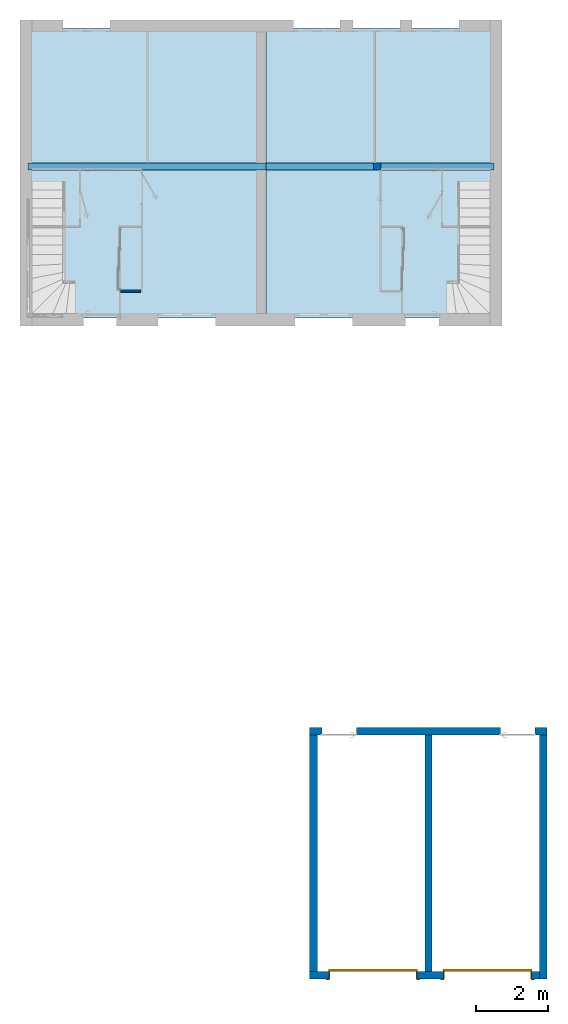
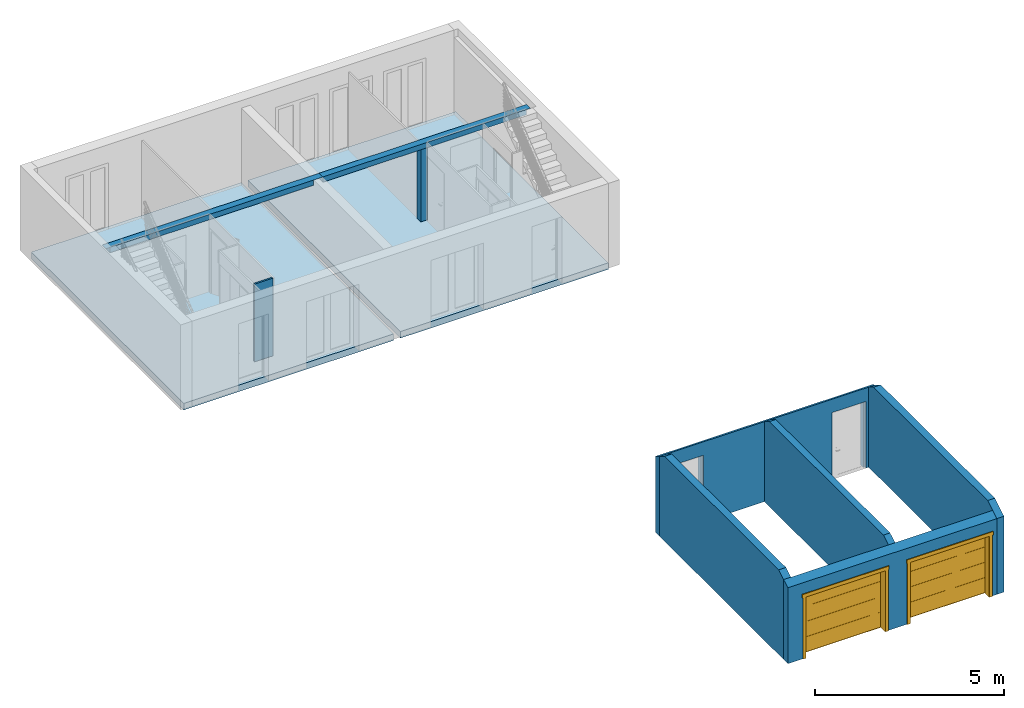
# One storey, part 1 of 12: 6 walls, 2 beams, 2 doors, 2 slabs, 1 column, 4 openings.
"""IFC2X3 building model written with IfcOpenShell, lengths in metres."""

import ifcopenshell
import ifcopenshell.guid

model = None  # the IFC model being written
_history = None  # IfcOwnerHistory: only IFC2X3 demands one
_inside = {}  # id of a spatial element -> (the spatial element, [elements in it])
_under = {}  # id of a project, library or spatial element -> (it, [spatial elements below it])
_declared = {}  # id of a project -> (the project, [libraries it declares])
_typed = {}  # id of a type object -> (the type object, [elements of that type])
_made_of = {}  # id of a material, layer set ... -> (it, [elements and type objects made of it])


def new_model(schema):
    """Start an empty IFC model of exactly this schema.

    Asked for "IFC4X3", IfcOpenShell would pick the latest addendum, in which some entities
    have other attributes; the version numbers below select the first issue.
    IFC2X3 requires an IfcOwnerHistory on every rooted entity: one is made here for all.
    """
    global model, _history
    if schema == "IFC4X3":
        model = ifcopenshell.file(schema_version=(4, 3, 0, 0))
    else:
        model = ifcopenshell.file(schema=schema)
    _inside.clear()
    _under.clear()
    _declared.clear()
    _typed.clear()
    _made_of.clear()
    _history = None
    if model.schema == "IFC2X3":
        org = make("IfcOrganization", Name="unknown")
        user = make(
            "IfcPersonAndOrganization",
            ThePerson=make("IfcPerson", FamilyName="unknown"),
            TheOrganization=org,
        )
        app = make(
            "IfcApplication",
            ApplicationDeveloper=org,
            Version="unknown",
            ApplicationFullName="unknown",
            ApplicationIdentifier="unknown",
        )
        _history = make(
            "IfcOwnerHistory",
            OwningUser=user,
            OwningApplication=app,
            ChangeAction="ADDED",
            CreationDate=0,
        )
    return model


def make(cls, **values):
    """One entity of the class cls with the attributes given. An attribute that is None is left unset."""
    return model.create_entity(
        cls, **{name: value for name, value in values.items() if value is not None}
    )


def entity(cls, *values):
    """Any entity or typed value of the class cls, its attributes in the order of the schema. None: left unset."""
    e = model.create_entity(cls)
    for i, value in enumerate(values):
        if value is not None:
            e[i] = value
    return e


def rooted(cls, **values):
    """An entity with a GlobalId (a new one), such as an element, a storey or a relation."""
    return make(cls, GlobalId=ifcopenshell.guid.new(), OwnerHistory=_history, **values)


def si_unit(unit_type, name, prefix=None):
    """IfcSIUnit, for example si_unit("LENGTHUNIT", "METRE", prefix="MILLI")."""
    return make("IfcSIUnit", UnitType=unit_type, Prefix=prefix, Name=name)


def converted_unit(unit_type, name, factor, base, dimensions=None, offset=None):
    """IfcConversionBasedUnit, such as the inch: factor (a typed value) times the base unit."""
    return make(
        "IfcConversionBasedUnit"
        if offset is None
        else "IfcConversionBasedUnitWithOffset",
        ConversionOffset=offset,
        Dimensions=None
        if dimensions is None
        else entity("IfcDimensionalExponents", *dimensions),
        UnitType=unit_type,
        Name=name,
        ConversionFactor=make(
            "IfcMeasureWithUnit", ValueComponent=factor, UnitComponent=base
        ),
    )


def derived_unit(unit_type, elements):
    """IfcDerivedUnit: a product of units, each with its exponent."""
    return make(
        "IfcDerivedUnit",
        Elements=[
            make("IfcDerivedUnitElement", Unit=unit, Exponent=power)
            for unit, power in elements
        ],
        UnitType=unit_type,
    )


def assignment(units):
    """IfcUnitAssignment: the units of a project."""
    return None if units is None else make("IfcUnitAssignment", Units=units)


def point(xyz):
    """IfcCartesianPoint."""
    return None if xyz is None else make("IfcCartesianPoint", Coordinates=xyz)


def direction(xyz):
    """IfcDirection."""
    return None if xyz is None else make("IfcDirection", DirectionRatios=xyz)


def frame(location, z_axis=None, x_axis=None):
    """IfcAxis2Placement3D, a coordinate frame: its origin and axes. An axis left out is left unset."""
    return make(
        "IfcAxis2Placement3D",
        Location=point(location),
        Axis=direction(z_axis),
        RefDirection=direction(x_axis),
    )


def frame_2d(location, x_axis=None):
    """IfcAxis2Placement2D, a coordinate frame in the plane: its origin and x axis."""
    return make(
        "IfcAxis2Placement2D", Location=point(location), RefDirection=direction(x_axis)
    )


def origin():
    """The frame at (0, 0, 0) with its axes left unset."""
    return frame((0.0, 0.0, 0.0))


def origin_2d_with_axis():
    """The frame at (0, 0) in the plane with the x axis (1, 0) written out."""
    return frame_2d((0.0, 0.0), x_axis=(1.0, 0.0))


def place(relative_to, where):
    """IfcLocalPlacement: puts the frame where relative to a parent placement (None: the world)."""
    return make(
        "IfcLocalPlacement", PlacementRelTo=relative_to, RelativePlacement=where
    )


def context(
    kind, dimensions, precision=None, world=None, true_north=None, identifier=None
):
    """IfcGeometricRepresentationContext, for example the 3D "Model" context."""
    return make(
        "IfcGeometricRepresentationContext",
        ContextIdentifier=identifier,
        ContextType=kind,
        CoordinateSpaceDimension=dimensions,
        Precision=precision,
        WorldCoordinateSystem=world,
        TrueNorth=true_north,
    )


def subcontext(parent, identifier, kind, view, scale=None):
    """IfcGeometricRepresentationSubContext, for example "Body" below "Model"."""
    return make(
        "IfcGeometricRepresentationSubContext",
        ContextIdentifier=identifier,
        ContextType=kind,
        ParentContext=parent,
        TargetScale=scale,
        TargetView=view,
    )


def project(units=None, contexts=None):
    """IfcProject with its units and contexts."""
    return rooted(
        "IfcProject",
        Name="project",
        RepresentationContexts=contexts,
        UnitsInContext=assignment(units),
    )


def spatial(cls, under=None, at=None, **own):
    """A site, building, storey or space (cls), placed at a placement, below another one or the project."""
    s = rooted(cls, ObjectPlacement=at, **own)
    if under is not None:
        _under.setdefault(under.id(), (under, []))[1].append(s)
    return s


def polyline(points):
    """IfcPolyline through the points."""
    return make("IfcPolyline", Points=[point(p) for p in points])


def profile(cls, at=None, kind="AREA", **sizes):
    """A parametric profile (cls). Its sizes go by their IFC names, for example OverallWidth=200.0."""
    return make(cls, ProfileType=kind, Position=at, **sizes)


def rectangle(**sizes):
    """IfcRectangleProfileDef."""
    return profile("IfcRectangleProfileDef", **sizes)


def outline(outer, holes=None, kind="AREA"):
    """IfcArbitraryClosedProfileDef: a profile drawn as a closed curve; with holes, ...WithVoids."""
    if holes is None:
        return make("IfcArbitraryClosedProfileDef", ProfileType=kind, OuterCurve=outer)
    return make(
        "IfcArbitraryProfileDefWithVoids",
        ProfileType=kind,
        OuterCurve=outer,
        InnerCurves=holes,
    )


def extrude(swept, where, along, depth):
    """IfcExtrudedAreaSolid: the profile swept, set in the frame where, extruded along a direction by depth."""
    return make(
        "IfcExtrudedAreaSolid",
        SweptArea=swept,
        Position=where,
        ExtrudedDirection=direction(along),
        Depth=depth,
    )


def clip(a, b, op="DIFFERENCE"):
    """IfcBooleanClippingResult: the solid a cut by the half space b."""
    return make(
        "IfcBooleanClippingResult", Operator=op, FirstOperand=a, SecondOperand=b
    )


def halfspace(plane, agree):
    """IfcHalfSpaceSolid: all space on one side of the plane z = 0 of the frame plane."""
    return make(
        "IfcHalfSpaceSolid",
        BaseSurface=make("IfcPlane", Position=plane),
        AgreementFlag=agree,
    )


def bounded_halfspace(plane, agree, where, boundary):
    """IfcPolygonalBoundedHalfSpace: a half space limited to a polygon's prism."""
    return make(
        "IfcPolygonalBoundedHalfSpace",
        BaseSurface=make("IfcPlane", Position=plane),
        AgreementFlag=agree,
        Position=where,
        PolygonalBoundary=boundary,
    )


def faces_of(points, faces, orient=None, outer=None):
    """IfcFace entities. A face is a list of loops; a loop is a list of indices into points, from 0.

    orient and outer hold one flag for each loop. By default every Orientation is true, the
    first loop of a face is its IfcFaceOuterBound and the others are IfcFaceBound.
    """
    made = []
    for i, loops in enumerate(faces):
        bounds = []
        for j, loop in enumerate(loops):
            is_outer = j == 0 if outer is None else outer[i][j]
            bounds.append(
                make(
                    "IfcFaceOuterBound" if is_outer else "IfcFaceBound",
                    Bound=make("IfcPolyLoop", Polygon=[points[k] for k in loop]),
                    Orientation=True if orient is None else orient[i][j],
                )
            )
        made.append(make("IfcFace", Bounds=bounds))
    return made


def faceted_brep(points, faces, orient=None, outer=None, voids=None):
    """IfcFacetedBrep: a solid bounded by flat faces; with voids (closed shells), ...WithVoids."""
    shared = [point(p) for p in points]
    hull = make("IfcClosedShell", CfsFaces=faces_of(shared, faces, orient, outer))
    if voids is None:
        return make("IfcFacetedBrep", Outer=hull)
    return make(
        "IfcFacetedBrepWithVoids",
        Outer=hull,
        Voids=[
            make(cls, CfsFaces=faces_of(shared, fs, o, b)) for cls, fs, o, b in voids
        ],
    )


def shape(context_of_items, identifier, shape_type, items):
    """IfcShapeRepresentation: the items that make up one representation, for example the "Body"."""
    return make(
        "IfcShapeRepresentation",
        ContextOfItems=context_of_items,
        RepresentationIdentifier=identifier,
        RepresentationType=shape_type,
        Items=items,
    )


def source(mapping_origin, context_of_items, identifier, shape_type, items):
    """IfcRepresentationMap: a shape defined once, which mapped items show again and again."""
    return make(
        "IfcRepresentationMap",
        MappingOrigin=mapping_origin,
        MappedRepresentation=shape(context_of_items, identifier, shape_type, items),
    )


def transform(
    local_origin,
    x_axis=None,
    y_axis=None,
    z_axis=None,
    scale=None,
    scale2=None,
    scale3=None,
    uniform=True,
):
    """IfcCartesianTransformationOperator3D, or its non-uniform kind. x_axis, y_axis, z_axis: its Axis1, 2, 3."""
    if uniform:
        return make(
            "IfcCartesianTransformationOperator3D",
            Axis1=direction(x_axis),
            Axis2=direction(y_axis),
            LocalOrigin=point(local_origin),
            Scale=scale,
            Axis3=direction(z_axis),
        )
    return make(
        "IfcCartesianTransformationOperator3DnonUniform",
        Axis1=direction(x_axis),
        Axis2=direction(y_axis),
        LocalOrigin=point(local_origin),
        Scale=scale,
        Axis3=direction(z_axis),
        Scale2=scale2,
        Scale3=scale3,
    )


def mapped(mapping_source, mapping_target):
    """IfcMappedItem: shows the shape of a source again, moved by a transform."""
    return make(
        "IfcMappedItem", MappingSource=mapping_source, MappingTarget=mapping_target
    )


def material(Name=None, Category=None):
    """IfcMaterial."""
    return make("IfcMaterial", Name=Name, Category=Category)


def layer(
    of_material, thickness, ventilated=None, Name=None, Category=None, Priority=None
):
    """IfcMaterialLayer: one layer of a wall or slab, of a material (None: an air gap)."""
    return make(
        "IfcMaterialLayer",
        Material=of_material,
        LayerThickness=thickness,
        IsVentilated=ventilated,
        Name=Name,
        Category=Category,
        Priority=Priority,
    )


def layer_set(layers, Name=None):
    """IfcMaterialLayerSet."""
    return make("IfcMaterialLayerSet", MaterialLayers=layers, LayerSetName=Name)


def layer_usage(for_layer_set, set_direction, sense, offset, extent=None):
    """IfcMaterialLayerSetUsage: how a layer set lies in its element."""
    return make(
        "IfcMaterialLayerSetUsage",
        ForLayerSet=for_layer_set,
        LayerSetDirection=set_direction,
        DirectionSense=sense,
        OffsetFromReferenceLine=offset,
        ReferenceExtent=extent,
    )


def made_of(thing, what):
    """Note that an element or type object is made of a material, layer set ...; save() writes the relation."""
    if what is not None:
        _made_of.setdefault(what.id(), (what, []))[1].append(thing)
    return thing


def type_object(cls, material=None, **own):
    """A type object (cls), such as IfcWallType, which elements share."""
    return made_of(rooted(cls, **own), material)


def type_shapes(of_type, sources):
    """Give a type object the sources (RepresentationMaps) that its elements show as mapped items."""
    of_type.RepresentationMaps = sources


def element(
    cls,
    number,
    at=None,
    inside=None,
    cuts=None,
    type_object=None,
    material=None,
    context=None,
    identifier="Body",
    shape_type=None,
    held_by="IfcProductDefinitionShape",
    body=None,
    shapes=None,
    **own,
):
    """One element of the class cls, such as IfcWall. Its Tag is "e" and its number.

    at: its placement. inside: the storey or other place that contains it. cuts: it is an
    opening in that element (IfcRelVoidsElement). A single representation is given by context,
    identifier, shape_type and body (its items); several are given by shapes. held_by: the class
    of the entity that holds the representations. save() writes the other relations.
    """
    e = rooted(cls, Tag="e%d" % number, ObjectPlacement=at, **own)
    if body is not None:
        shapes = [shape(context, identifier, shape_type, body)]
    if shapes is not None:
        e.Representation = make(held_by, Representations=shapes)
    if inside is not None:
        _inside.setdefault(inside.id(), (inside, []))[1].append(e)
    if cuts is not None:
        rooted(
            "IfcRelVoidsElement", RelatingBuildingElement=cuts, RelatedOpeningElement=e
        )
    if type_object is not None:
        _typed.setdefault(type_object.id(), (type_object, []))[1].append(e)
    return made_of(e, material)


def fill(opening, filler):
    """IfcRelFillsElement: the door or window that sits in an opening."""
    return rooted(
        "IfcRelFillsElement",
        RelatingOpeningElement=opening,
        RelatedBuildingElement=filler,
    )


def aggregate(whole, parts):
    """IfcRelAggregates: a whole, such as a stair, and the parts it consists of."""
    return rooted("IfcRelAggregates", RelatingObject=whole, RelatedObjects=parts)


def save(model, path):
    """Write the relations noted so far, then the file.

    IfcRelAggregates (storeys below a building ...), IfcRelContainedInSpatialStructure (elements
    in a storey), IfcRelDefinesByType, IfcRelAssociatesMaterial and IfcRelDeclares: one each for
    every whole, place, type object, material and project.
    """
    for whole, parts in _under.values():
        aggregate(whole, parts)
    for where, things in _inside.values():
        rooted(
            "IfcRelContainedInSpatialStructure",
            RelatedElements=things,
            RelatingStructure=where,
        )
    for kind, things in _typed.values():
        rooted("IfcRelDefinesByType", RelatedObjects=things, RelatingType=kind)
    for what, things in _made_of.values():
        rooted("IfcRelAssociatesMaterial", RelatedObjects=things, RelatingMaterial=what)
    for by, libraries in _declared.values():
        rooted("IfcRelDeclares", RelatingContext=by, RelatedDefinitions=libraries)
    model.write(path)


model = new_model("IFC2X3")

# Units and contexts
model_context = context("Model", 3, precision=1e-05, world=origin(), true_north=direction((6.12303176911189e-17, 1.0)))
context_of_model = context(None, 3, precision=1e-05, world=origin(), true_north=direction((6.12303176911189e-17, 1.0)))
body_context = subcontext(model_context, "Body", "Model", "MODEL_VIEW")
ifc_project = project(units=[si_unit("LENGTHUNIT", "METRE"), si_unit("AREAUNIT", "SQUARE_METRE"), si_unit("VOLUMEUNIT", "CUBIC_METRE"), converted_unit("PLANEANGLEUNIT", "DEGREE", entity("IfcRatioMeasure", 0.0174532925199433), si_unit("PLANEANGLEUNIT", "RADIAN"), dimensions=[0, 0, 0, 0, 0, 0, 0]), si_unit("MASSUNIT", "GRAM", prefix="KILO"), si_unit("TIMEUNIT", "SECOND"), si_unit("FREQUENCYUNIT", "HERTZ"), si_unit("THERMODYNAMICTEMPERATUREUNIT", "DEGREE_CELSIUS"), derived_unit("THERMALTRANSMITTANCEUNIT", [(si_unit("MASSUNIT", "GRAM", prefix="KILO"), 1), (si_unit("THERMODYNAMICTEMPERATUREUNIT", "KELVIN"), -1), (si_unit("TIMEUNIT", "SECOND"), -3)]), derived_unit("VOLUMETRICFLOWRATEUNIT", [(si_unit("LENGTHUNIT", "METRE"), 3), (si_unit("TIMEUNIT", "SECOND"), -1)]), si_unit("ELECTRICCURRENTUNIT", "AMPERE"), si_unit("ELECTRICVOLTAGEUNIT", "VOLT"), si_unit("POWERUNIT", "WATT"), si_unit("FORCEUNIT", "NEWTON", prefix="KILO"), si_unit("ILLUMINANCEUNIT", "LUX"), si_unit("LUMINOUSFLUXUNIT", "LUMEN"), si_unit("LUMINOUSINTENSITYUNIT", "CANDELA"), derived_unit("USERDEFINED", [(si_unit("MASSUNIT", "GRAM", prefix="KILO"), -1), (si_unit("LENGTHUNIT", "METRE"), -2), (si_unit("TIMEUNIT", "SECOND"), 3), (si_unit("LUMINOUSFLUXUNIT", "LUMEN"), 1)]), derived_unit("LINEARVELOCITYUNIT", [(si_unit("LENGTHUNIT", "METRE"), 1), (si_unit("TIMEUNIT", "SECOND"), -1)]), si_unit("PRESSUREUNIT", "PASCAL"), derived_unit("USERDEFINED", [(si_unit("LENGTHUNIT", "METRE"), -2), (si_unit("MASSUNIT", "GRAM", prefix="KILO"), 1), (si_unit("TIMEUNIT", "SECOND"), -2)])], contexts=[model_context, context_of_model])

# Site, building, storey
site_placement = place(None, origin())
site = spatial("IfcSite", under=ifc_project, at=site_placement, Name="Surface", CompositionType="ELEMENT")
building_placement = place(site_placement, origin())
building = spatial("IfcBuilding", under=site, at=building_placement, CompositionType="ELEMENT")
storey_placement = place(building_placement, origin())
storey = spatial("IfcBuildingStorey", under=building, at=storey_placement, Name="Rez de chaussée", CompositionType="ELEMENT", Elevation=0.0)

# Column
ifc_material_1 = material(Name="Maçonnerie - Béton")
column_type = type_object("IfcColumnType", Name="200 x 200 mm", PredefinedType="COLUMN", material=ifc_material_1)
shared_shape_1 = source(origin(), body_context, "Body", "SweptSolid", [
    extrude(rectangle(XDim=0.2, YDim=0.2, at=frame_2d((-1.38777878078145e-16, 0.0), x_axis=(1.0, 0.0))), frame((-1.70608881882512, 1.61425578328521, -0.61), z_axis=(0.0, 0.0, 1.0), x_axis=(-1.0, 0.0, 0.0)), (0.0, 0.0, 1.0), 2.94),
])
type_shapes(column_type, [shared_shape_1])
column_placement = place(storey_placement, origin())
element("IfcColumn", 1, at=column_placement, inside=storey, type_object=column_type, material=ifc_material_1, Name="Poteau rectangulaire:200 x 200 mm", ObjectType="200 x 200 mm", context=body_context, shape_type="MappedRepresentation", body=[
    mapped(shared_shape_1, transform((0.0, 0.0, 0.0), scale=1.0)),
])

# Beams
beam_1_placement = place(storey_placement, frame((-11.4160888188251, 1.51425578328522, 2.33)))
element("IfcBeam", 2, at=beam_1_placement, inside=storey, material=ifc_material_1, Name="Poutre rectangulaire - Béton:200 x 400 mm", ObjectType="Poutre rectangulaire - Béton:200 x 400 mm", context=body_context, shape_type="Brep", body=[
    faceted_brep([(6.33999999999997, 0.0, 0.0), (6.33999999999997, 0.0, 0.168000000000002), (6.61999999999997, 0.0, 0.168000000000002), (6.61999999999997, 0.0, 0.170000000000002), (0.0, 0.0, 0.170000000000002), (0.0, 0.0, 0.168000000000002), (0.120000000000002, 0.0, 0.168000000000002), (0.120000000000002, 0.0, 0.0), (6.33999999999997, 0.200000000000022, 0.0), (0.120000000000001, 0.200000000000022, 0.0), (6.33999999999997, 0.200000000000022, 0.168000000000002), (0.120000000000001, 0.200000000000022, 0.168000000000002), (0.0, 0.200000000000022, 0.168000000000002), (0.0, 0.200000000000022, 0.170000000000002), (6.61999999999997, 0.200000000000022, 0.170000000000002), (6.61999999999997, 0.200000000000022, 0.168000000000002)], [[[0, 1, 2, 3, 4, 5, 6, 7]], [[8, 0, 7, 9]], [[10, 8, 9, 11, 12, 13, 14, 15]], [[10, 1, 0, 8]], [[6, 11, 9, 7]], [[1, 10, 15, 2]], [[11, 6, 5, 12]], [[12, 5, 4, 13]], [[2, 15, 14, 3]], [[4, 3, 14, 13]]]),
])
beam_2_placement = place(storey_placement, frame((-4.79608881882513, 1.5142557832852, 2.33)))
element("IfcBeam", 3, at=beam_2_placement, inside=storey, material=ifc_material_1, Name="Poutre rectangulaire - Béton:200 x 400 mm", ObjectType="Poutre rectangulaire - Béton:200 x 400 mm", context=body_context, shape_type="Brep", body=[
    faceted_brep([(6.22, 0.0, 0.0), (6.22, 0.0, 0.168000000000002), (6.34, 0.0, 0.168000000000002), (6.34, 0.0, 0.170000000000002), (0.0, 0.0, 0.170000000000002), (0.0, 0.0, 0.168000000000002), (0.0, 0.0, 0.0), (6.22, 0.20000000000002, 0.0), (0.0, 0.20000000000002, 0.0), (6.22, 0.20000000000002, 0.168000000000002), (0.0, 0.20000000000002, 0.168000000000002), (0.0, 0.20000000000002, 0.170000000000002), (6.34, 0.200000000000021, 0.170000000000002), (6.34, 0.200000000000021, 0.168000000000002)], [[[0, 1, 2, 3, 4, 5, 6]], [[7, 0, 6, 8]], [[9, 7, 8, 10, 11, 12, 13]], [[9, 1, 0, 7]], [[8, 6, 5, 4, 11, 10]], [[1, 9, 13, 2]], [[2, 13, 12, 3]], [[4, 3, 12, 11]]]),
])

# Slabs
ifc_layer_1 = layer(ifc_material_1, 0.13)
ifc_material_2 = material(Name="Maçonnerie - Isolant 1")
ifc_layer_2 = layer(ifc_material_2, 0.08)
ifc_layer_set_1 = layer_set([ifc_layer_1, ifc_layer_2], Name="Sol:Dalle en béton - 13")
ifc_layer_usage_1 = layer_usage(ifc_layer_set_1, "AXIS3", "POSITIVE", 0.0)
slab_1_placement = place(storey_placement, origin())
element("IfcSlab", 4, at=slab_1_placement, inside=storey, material=ifc_layer_usage_1, Name="Sol:Dalle en béton - 13", ObjectType="Sol:Dalle en béton - 13", PredefinedType="FLOOR", context=body_context, shape_type="SweptSolid", body=[
    extrude(rectangle(XDim=8.06000000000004, YDim=6.35000000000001, at=frame_2d((0.0, -3.10862446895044e-15), x_axis=(1.0, 0.0))), frame((-1.63108881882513, 1.4342557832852, 0.0), z_axis=(0.0, 0.0, -1.0), x_axis=(0.0, 1.0, 0.0)), (0.0, 0.0, 1.0), 0.21),
])
ifc_layer_usage_2 = layer_usage(ifc_layer_set_1, "AXIS3", "POSITIVE", 0.0)
slab_2_placement = place(storey_placement, origin())
element("IfcSlab", 5, at=slab_2_placement, inside=storey, material=ifc_layer_usage_2, Name="Sol:Dalle en béton - 13", ObjectType="Sol:Dalle en béton - 13", PredefinedType="FLOOR", context=body_context, shape_type="SweptSolid", body=[
    extrude(rectangle(XDim=8.06000000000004, YDim=6.40999999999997, at=frame_2d((0.0, -4.44089209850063e-16), x_axis=(1.0, 0.0))), frame((-8.21108881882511, 1.4342557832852, 0.0), z_axis=(0.0, 0.0, -1.0), x_axis=(0.0, 1.0, 0.0)), (0.0, 0.0, 1.0), 0.21),
])

# Wall
ifc_material_3 = material(Name="Maçonnerie - Isolant(1)")
ifc_layer_3 = layer(ifc_material_3, 0.05)
ifc_layer_set_2 = layer_set([ifc_layer_3], Name="Mur de base:Int. plâtre 50 mm")
ifc_layer_usage_3 = layer_usage(ifc_layer_set_2, "AXIS2", "NEGATIVE", 0.025)
wall_type_1 = type_object("IfcWallType", Name="Mur de base:Int. plâtre 50 mm", PredefinedType="STANDARD", material=ifc_layer_set_2)
wall_1_placement = place(storey_placement, frame((-8.27608881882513, -1.85074421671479, -0.00999999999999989), z_axis=(0.0, 0.0, 1.0), x_axis=(-1.0, 0.0, 0.0)))
element("IfcWallStandardCase", 6, at=wall_1_placement, inside=storey, type_object=wall_type_1, material=ifc_layer_usage_3, Name="Mur de base:Int. plâtre 50 mm", ObjectType="Mur de base:Int. plâtre 50 mm", context=body_context, shape_type="SweptSolid", body=[
    extrude(rectangle(XDim=0.560000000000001, YDim=0.05, at=frame_2d((0.28, 0.0), x_axis=(-1.0, 0.0))), origin(), (0.0, 0.0, 1.0), 2.52),
])

# Wall, openings
ifc_material_4 = material(Name="Maçonnerie - Enduit")
ifc_layer_4 = layer(ifc_material_4, 0.02)
ifc_layer_5 = layer(ifc_material_1, 0.2)
ifc_layer_set_3 = layer_set([ifc_layer_4, ifc_layer_5], Name="Mur de base:Ext.BBM + enduit 22")
ifc_layer_usage_4 = layer_usage(ifc_layer_set_3, "AXIS2", "NEGATIVE", 0.11)
wall_type_2 = type_object("IfcWallType", Name="Mur de base:Ext.BBM + enduit 22", PredefinedType="STANDARD", material=ifc_layer_set_3)
wall_2_placement = place(storey_placement, frame((-3.58506493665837, -14.0835833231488, 0.0)))
wall_2 = element("IfcWallStandardCase", 7, at=wall_2_placement, inside=storey, type_object=wall_type_2, material=ifc_layer_usage_4, Name="Mur de base:Ext.BBM + enduit 22", ObjectType="Mur de base:Ext.BBM + enduit 22", context=body_context, shape_type="Clipping", body=[
    clip(extrude(rectangle(XDim=6.60000000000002, YDim=0.220000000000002, at=frame_2d((3.30000000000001, -2.70616862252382e-16), x_axis=(-1.0, 0.0))), origin(), (0.0, 0.0, 1.0), 2.58218933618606), bounded_halfspace(frame((0.0, -0.109999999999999, 2.58218933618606), z_axis=(0.0, 0.515038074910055, 0.857167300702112), x_axis=(-1.0, 0.0, 0.0)), False, frame((0.0, -0.109999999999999, 2.58218933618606)), polyline([(0.0, 0.0), (0.22, 0.0), (3.2, 0.0), (3.4, 0.0), (6.38000000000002, 0.0), (6.60000000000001, 0.0), (6.60000000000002, 0.219999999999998), (0.0, 0.22), (0.0, 0.0)]))),
])
opening_1_placement = place(wall_2_placement, frame((0.305000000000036, -0.410000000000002, 0.0)))
element("IfcOpeningElement", 8, at=opening_1_placement, cuts=wall_2, Name="Mur de base:Ext.BBM + enduit 22", ObjectType="Opening", context=body_context, shape_type="Brep", body=[
    faceted_brep([(0.98999999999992, 0.820000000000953, 2.11000000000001), (0.0400000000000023, 0.820000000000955, 2.11000000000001), (0.0400000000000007, 0.350000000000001, 2.11000000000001), (0.989999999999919, 0.349999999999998, 2.11000000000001), (0.0400000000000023, 0.820000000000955, 0.0), (0.98999999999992, 0.820000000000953, 0.0), (0.989999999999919, 0.349999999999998, 0.0), (1.02999999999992, 0.349999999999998, 0.0), (1.02999999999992, 0.299999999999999, 0.0), (0.989999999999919, 0.299999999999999, 0.0), (0.989999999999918, 0.0, 0.0), (0.0399999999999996, 0.0, 0.0), (0.0400000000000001, 0.300000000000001, 0.0), (0.0, 0.300000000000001, 0.0), (0.0, 0.350000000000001, 0.0), (0.0400000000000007, 0.350000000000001, 0.0), (0.989999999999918, 0.0, 2.11000000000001), (0.0399999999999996, 0.0, 2.11000000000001), (1.02999999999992, 0.299999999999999, 2.15000000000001), (0.0, 0.300000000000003, 2.15000000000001), (0.0400000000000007, 0.300000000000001, 2.11000000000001), (0.989999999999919, 0.299999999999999, 2.11000000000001), (1.02999999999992, 0.349999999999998, 2.15000000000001), (0.0, 0.350000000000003, 2.15000000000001)], [[[0, 1, 2, 3]], [[4, 5, 6, 7, 8, 9, 10, 11, 12, 13, 14, 15]], [[1, 0, 5, 4]], [[5, 0, 3, 6]], [[16, 17, 11, 10]], [[1, 4, 15, 2]], [[9, 8, 18, 19, 13, 12, 20, 21]], [[8, 7, 22, 18]], [[7, 6, 3, 2, 15, 14, 23, 22]], [[19, 18, 22, 23]], [[13, 19, 23, 14]], [[11, 17, 20, 12]], [[16, 10, 9, 21]], [[17, 16, 21, 20]]]),
])
opening_2_placement = place(wall_2_placement, frame((5.26500000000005, -0.41000000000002, 0.0)))
element("IfcOpeningElement", 9, at=opening_2_placement, cuts=wall_2, Name="Mur de base:Ext.BBM + enduit 22", ObjectType="Opening", context=body_context, shape_type="Brep", body=[
    faceted_brep([(0.989999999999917, 0.0, 2.11000000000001), (0.989999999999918, 0.299999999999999, 2.11000000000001), (0.0399999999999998, 0.300000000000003, 2.11000000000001), (0.039999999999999, 0.0, 2.11000000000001), (0.98999999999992, 0.820000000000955, 0.0), (0.989999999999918, 0.350000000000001, 0.0), (1.02999999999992, 0.349999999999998, 0.0), (1.02999999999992, 0.299999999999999, 0.0), (0.989999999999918, 0.299999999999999, 0.0), (0.989999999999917, 0.0, 0.0), (0.039999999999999, 0.0, 0.0), (0.0399999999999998, 0.300000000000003, 0.0), (0.0, 0.300000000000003, 0.0), (0.0, 0.350000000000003, 0.0), (0.0399999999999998, 0.350000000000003, 0.0), (0.0400000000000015, 0.820000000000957, 0.0), (0.98999999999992, 0.820000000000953, 2.11000000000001), (0.0400000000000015, 0.820000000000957, 2.11000000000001), (0.989999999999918, 0.350000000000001, 2.11000000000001), (1.02999999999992, 0.299999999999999, 2.15000000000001), (0.0, 0.300000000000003, 2.15000000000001), (0.0, 0.350000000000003, 2.15000000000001), (1.02999999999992, 0.349999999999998, 2.15000000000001), (0.0399999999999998, 0.350000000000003, 2.11000000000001)], [[[0, 1, 2, 3]], [[4, 5, 6, 7, 8, 9, 10, 11, 12, 13, 14, 15]], [[16, 4, 15, 17]], [[3, 2, 11, 10]], [[3, 10, 9, 0]], [[16, 18, 5, 4]], [[11, 2, 1, 8, 7, 19, 20, 12]], [[12, 20, 21, 13]], [[13, 21, 22, 6, 5, 18, 23, 14]], [[19, 22, 21, 20]], [[7, 6, 22, 19]], [[9, 8, 1, 0]], [[15, 14, 23, 17]], [[17, 23, 18, 16]]]),
])

# Wall
ifc_layer_usage_5 = layer_usage(ifc_layer_set_3, "AXIS2", "NEGATIVE", 0.11)
wall_3_placement = place(storey_placement, frame((2.90493506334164, -14.1935833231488, 0.0), z_axis=(0.0, 0.0, 1.0), x_axis=(0.0, -1.0, 0.0)))
element("IfcWallStandardCase", 10, at=wall_3_placement, inside=storey, type_object=wall_type_2, material=ifc_layer_usage_5, Name="Mur de base:Ext.BBM + enduit 22", ObjectType="Mur de base:Ext.BBM + enduit 22", context=body_context, shape_type="Clipping", body=[
    clip(clip(clip(extrude(rectangle(XDim=6.78000000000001, YDim=0.22, at=frame_2d((3.39, 1.38777878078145e-17), x_axis=(-1.0, 0.0))), origin(), (0.0, 0.0, 1.0), 2.74), bounded_halfspace(frame((0.0, -0.11, 2.58218933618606), z_axis=(-0.515038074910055, 0.0, 0.857167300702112), x_axis=(0.0, -1.0, 0.0)), False, frame((0.0, -0.11, 2.58218933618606)), polyline([(0.0, 0.0), (3.27999999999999, 0.0), (3.27999999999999, 0.22), (0.0, 0.22), (0.0, 0.0)]))), bounded_halfspace(frame((3.27999999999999, -0.11, 4.55301216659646), z_axis=(0.515038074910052, 0.0, 0.857167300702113), x_axis=(0.0, 1.0, 0.0)), False, frame((3.27999999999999, -0.11, 4.55301216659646)), polyline([(0.0, 0.0), (3.28000000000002, 0.0), (3.50000000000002, 0.0), (3.50000000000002, 0.22), (0.0, 0.22), (0.0, 0.0)]))), halfspace(origin(), True)),
])

# Wall, openings, doors
ifc_layer_usage_6 = layer_usage(ifc_layer_set_3, "AXIS2", "NEGATIVE", 0.11)
wall_4_placement = place(storey_placement, frame((2.79493506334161, -20.8635833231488, 0.0), z_axis=(0.0, 0.0, 1.0), x_axis=(-1.0, 0.0, 0.0)))
wall_4 = element("IfcWallStandardCase", 11, at=wall_4_placement, inside=storey, type_object=wall_type_2, material=ifc_layer_usage_6, Name="Mur de base:Ext.BBM + enduit 22", ObjectType="Mur de base:Ext.BBM + enduit 22", context=body_context, shape_type="Clipping", body=[
    clip(extrude(rectangle(XDim=6.38, YDim=0.220000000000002, at=frame_2d((3.19, -1.62370117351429e-15), x_axis=(-1.0, 0.0))), origin(), (0.0, 0.0, 1.0), 2.58218933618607), bounded_halfspace(frame((0.0, -0.110000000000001, 2.58218933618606), z_axis=(0.0, 0.515038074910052, 0.857167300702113), x_axis=(-1.0, 0.0, 0.0)), False, frame((0.0, -0.110000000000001, 2.58218933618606)), polyline([(0.0, 0.0), (2.98, 0.0), (3.18, 0.0), (6.16, 0.0), (6.38, 0.0), (6.38, 0.219999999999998), (0.0, 0.220000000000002), (0.0, 0.0)]))),
])
opening_3_placement = place(wall_4_placement, frame((5.8392, 0.109999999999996, 0.0)))
opening_3 = element("IfcOpeningElement", 12, at=opening_3_placement, cuts=wall_4, Name="Overhead-Sectional-Flush:96\" x 78\":1", ObjectType="Opening", context=body_context, shape_type="SweptSolid", body=[
    extrude(rectangle(XDim=1.9812, YDim=2.4384, at=frame_2d((0.990599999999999, 1.2192), x_axis=(1.0, 0.0))), frame((0.0, 0.0, 0.0), z_axis=(0.0, -1.0, 0.0), x_axis=(0.0, 0.0, 1.0)), (0.0, 0.0, 1.0), 0.22),
])
opening_4_placement = place(wall_4_placement, frame((2.6592, 0.109999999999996, 0.0)))
opening_4 = element("IfcOpeningElement", 13, at=opening_4_placement, cuts=wall_4, Name="Overhead-Sectional-Flush:96\" x 78\":1", ObjectType="Opening", context=body_context, shape_type="SweptSolid", body=[
    extrude(rectangle(XDim=1.9812, YDim=2.4384, at=frame_2d((0.990599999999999, 1.2192), x_axis=(1.0, 0.0))), frame((0.0, 0.0, 0.0), z_axis=(0.0, -1.0, 0.0), x_axis=(0.0, 0.0, 1.0)), (0.0, 0.0, 1.0), 0.22),
])
ifc_material_5 = material(Name="Rubber - Black")
door_style = type_object("IfcDoorStyle", Name="96\" x 78\"", ConstructionType="NOTDEFINED", OperationType="NOTDEFINED", ParameterTakesPrecedence=False, Sizeable=False, material=ifc_material_5)
shared_shape_2 = source(origin(), body_context, "Body", "SweptSolid", [
    extrude(outline(polyline([(-0.0371230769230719, -0.984127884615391), (0.0136769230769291, -0.984127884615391), (0.0136769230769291, -0.499940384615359), (-0.011723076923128, -0.495177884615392), (0.0136769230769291, -0.495177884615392), (0.0136769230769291, -0.00464038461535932), (-0.0117230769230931, 0.000122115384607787), (0.0136769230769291, 0.000122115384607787), (0.0136769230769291, 0.49065961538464), (-0.0117230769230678, 0.495422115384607), (0.0136769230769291, 0.495422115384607), (0.0136769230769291, 0.990722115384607), (-0.0371230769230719, 0.990722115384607), (-0.0371230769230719, -0.984127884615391)])), frame((-0.0126999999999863, -0.0200269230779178, 0.990477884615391), z_axis=(1.0, 0.0, 0.0), x_axis=(0.0, 1.0, 0.0)), (0.0, 0.0, 1.0), 2.46379999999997),
    extrude(rectangle(XDim=0.01905, YDim=0.0889000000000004, at=origin_2d_with_axis()), frame((-0.0381, 0.229525, 0.0), z_axis=(0.0, 0.0, 1.0), x_axis=(0.0, -1.0, 0.0)), (0.0, 0.0, 1.0), 1.97485),
    extrude(rectangle(XDim=0.01905, YDim=0.0889000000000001, at=frame_2d((0.0, 1.35308431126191e-16), x_axis=(1.0, 0.0))), frame((2.4765, 0.229525, 0.0), z_axis=(0.0, 0.0, 1.0), x_axis=(0.0, -1.0, 0.0)), (0.0, 0.0, 1.0), 1.97485),
    extrude(outline(polyline([(-0.985837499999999, -1.20015), (-0.985837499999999, -1.2192), (0.995362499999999, -1.2192), (0.995362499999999, 1.2192), (-0.985837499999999, 1.2192), (-0.985837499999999, 1.20015), (0.976312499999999, 1.20015), (0.976312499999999, -1.20015), (-0.985837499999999, -1.20015)])), frame((1.2192, 0.0, 0.985837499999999), z_axis=(0.0, -1.0, 0.0), x_axis=(0.0, 0.0, 1.0)), (0.0, 0.0, -1.0), 0.22),
    extrude(outline(polyline([(-0.00317500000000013, -0.0269875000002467), (0.00317500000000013, -0.0269875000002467), (0.00317500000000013, 0.0301625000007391), (-0.00317500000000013, 0.0238124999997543), (-0.00317500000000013, -0.0269875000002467)])), frame((-0.0126999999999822, -0.030162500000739, 0.00317500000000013), z_axis=(1.0, 0.0, 0.0), x_axis=(0.0, 0.0, -1.0)), (0.0, 0.0, 1.0), 2.46379999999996),
    extrude(rectangle(XDim=0.0222249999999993, YDim=2.64159999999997, at=origin_2d_with_axis()), frame((1.2192, 0.2311125, 1.97485), z_axis=(0.0, 0.0, 1.0), x_axis=(0.0, -1.0, 0.0)), (0.0, 0.0, 1.0), 0.1143),
])
type_shapes(door_style, [shared_shape_2])
door_1_placement = place(opening_3_placement, frame((-2.4384, -0.22000000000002, 0.0)))
door_1 = element("IfcDoor", 14, at=door_1_placement, inside=storey, type_object=door_style, material=ifc_material_5, Name="Overhead-Sectional-Flush:96\" x 78\"", ObjectType="96\" x 78\"", OverallHeight=1.9812, OverallWidth=2.4384, context=body_context, shape_type="MappedRepresentation", body=[
    mapped(shared_shape_2, transform((0.0, 0.0, 0.0), scale=1.0)),
])
fill(opening_3, door_1)
door_2_placement = place(opening_4_placement, frame((-2.4384, -0.220000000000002, 0.0)))
door_2 = element("IfcDoor", 15, at=door_2_placement, inside=storey, type_object=door_style, material=ifc_material_5, Name="Overhead-Sectional-Flush:96\" x 78\"", ObjectType="96\" x 78\"", OverallHeight=1.9812, OverallWidth=2.4384, context=body_context, shape_type="MappedRepresentation", body=[
    mapped(shared_shape_2, transform((0.0, 0.0, 0.0), scale=1.0)),
])
fill(opening_4, door_2)

# Walls
ifc_layer_usage_7 = layer_usage(ifc_layer_set_3, "AXIS2", "NEGATIVE", 0.11)
wall_5_placement = place(storey_placement, frame((-3.47506493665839, -20.7535833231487, 0.0), z_axis=(0.0, 0.0, 1.0), x_axis=(0.0, 1.0, 0.0)))
element("IfcWallStandardCase", 16, at=wall_5_placement, inside=storey, type_object=wall_type_2, material=ifc_layer_usage_7, Name="Mur de base:Ext.BBM + enduit 22", ObjectType="Mur de base:Ext.BBM + enduit 22", context=body_context, shape_type="Clipping", body=[
    clip(clip(clip(extrude(rectangle(XDim=6.55999999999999, YDim=0.22, at=frame_2d((3.28, 0.0), x_axis=(-1.0, 0.0))), origin(), (0.0, 0.0, 1.0), 2.74), bounded_halfspace(frame((3.28000000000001, -0.11, 4.55301216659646), z_axis=(0.515038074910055, 0.0, 0.857167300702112), x_axis=(0.0, 1.0, 0.0)), False, frame((3.28000000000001, -0.11, 4.55301216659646)), polyline([(0.0, 0.0), (3.27999999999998, 0.0), (3.27999999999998, 0.22), (0.0, 0.22), (0.0, 0.0)]))), bounded_halfspace(frame((0.0, -0.11, 2.58218933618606), z_axis=(-0.515038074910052, 0.0, 0.857167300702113), x_axis=(0.0, -1.0, 0.0)), False, frame((0.0, -0.11, 2.58218933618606)), polyline([(0.0, 0.0), (3.28000000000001, 0.0), (3.28000000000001, 0.22), (0.0, 0.22), (0.0, 0.0)]))), halfspace(origin(), True)),
])
ifc_material_6 = material(Name="Mur par défaut")
ifc_layer_6 = layer(ifc_material_6, 0.2)
ifc_layer_set_4 = layer_set([ifc_layer_6], Name="Mur de base:Ext.BBM 20 cm")
ifc_layer_usage_8 = layer_usage(ifc_layer_set_4, "AXIS2", "NEGATIVE", 0.1)
wall_type_3 = type_object("IfcWallType", Name="Mur de base:Ext.BBM 20 cm", PredefinedType="STANDARD", material=ifc_layer_set_4)
wall_6_placement = place(storey_placement, frame((-0.285064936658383, -20.7535833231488, 0.0), z_axis=(0.0, 0.0, 1.0), x_axis=(0.0, 1.0, 0.0)))
element("IfcWallStandardCase", 17, at=wall_6_placement, inside=storey, type_object=wall_type_3, material=ifc_layer_usage_8, Name="Mur de base:Ext.BBM 20 cm", ObjectType="Mur de base:Ext.BBM 20 cm", context=body_context, shape_type="Clipping", body=[
    clip(clip(clip(extrude(rectangle(XDim=6.55999999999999, YDim=0.2, at=frame_2d((3.28, 0.0), x_axis=(-1.0, 0.0))), origin(), (0.0, 0.0, 1.0), 2.74), bounded_halfspace(frame((3.28000000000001, -0.1, 4.55301216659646), z_axis=(0.515038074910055, 0.0, 0.857167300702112), x_axis=(0.0, 1.0, 0.0)), False, frame((3.28000000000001, -0.1, 4.55301216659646)), polyline([(0.0, 0.0), (3.27999999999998, 0.0), (3.27999999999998, 0.2), (0.0, 0.2), (0.0, 0.0)]))), bounded_halfspace(frame((0.0, -0.1, 2.58218933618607), z_axis=(-0.515038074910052, 0.0, 0.857167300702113), x_axis=(0.0, -1.0, 0.0)), False, frame((0.0, -0.1, 2.58218933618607)), polyline([(0.0, 0.0), (3.28000000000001, 0.0), (3.28000000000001, 0.200000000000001), (0.0, 0.2), (0.0, 0.0)]))), halfspace(origin(), True)),
])

save(model, "model.ifc")
